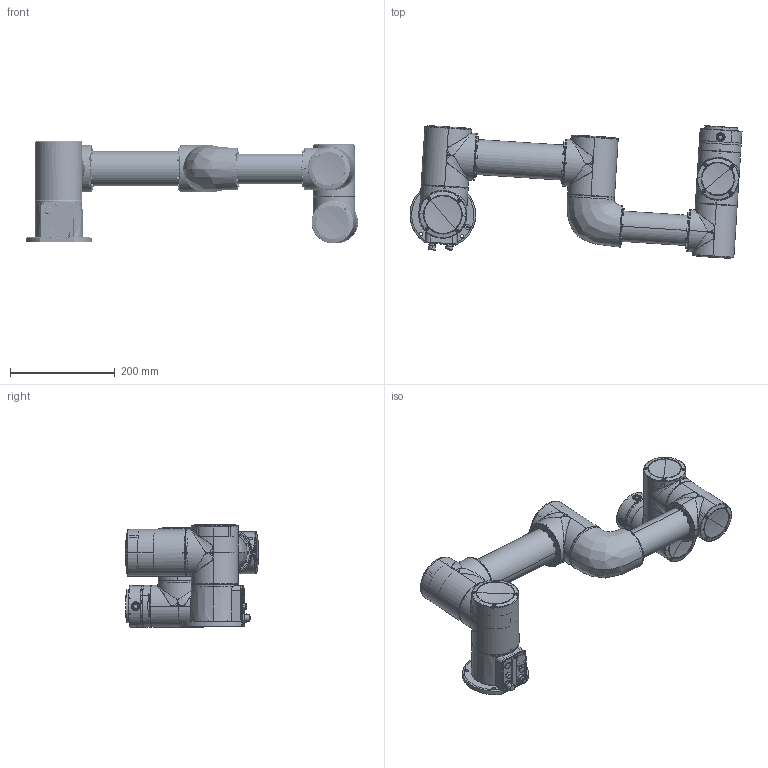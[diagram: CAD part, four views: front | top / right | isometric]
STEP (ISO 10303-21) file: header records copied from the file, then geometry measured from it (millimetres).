
FILE_DESCRIPTION (( 'STEP AP203' ), '1' );
FILE_NAME ('RD20.1-MTFR3-V6.0Èí¼þÄ£ÐÍ.STEP', '2024-11-14T06:56:09', ( '' ), ( '' ), 'SwSTEP 2.0', 'SolidWorks 2018', '' );
FILE_SCHEMA (( 'CONFIG_CONTROL_DESIGN' ));
Length unit declared in the file: millimetre
Products named in the file (7): RD20.1-MTFR3-V6.0软件模型; RD20.1-MTFR3-V6.0-3; RD20.1-MTFR3-V6.0-2; RD20.1-MTFR3-V6.0-1; RD20.1-MTFR3-V6.0-7; RD20.1-MTFR3-V6.0-5; RD20.1-MTFR3-V6.0-4
Assembly tree (7 placements, depth 2):
  RD20.1-MTFR3-V6.0软件模型
    RD20.1-MTFR3-V6.0-1
    RD20.1-MTFR3-V6.0-2
    RD20.1-MTFR3-V6.0-3
    RD20.1-MTFR3-V6.0-4
    RD20.1-MTFR3-V6.0-5  x2
    RD20.1-MTFR3-V6.0-7
Bounding box: 634.15 x 253.52 x 196.41 mm (x, y, z)
Volume: 6515056.5 mm3; surface area: 701017.8 mm2
Topology: 32 solids, 98 shells, 4486 faces, 11614 edges, 7551 vertices
Faces by surface type: plane 2038, cylinder 1523, cone 436, bspline 333, torus 124, sphere 32
Entity records: 202163 total; most frequent: CARTESIAN_POINT 102935, ORIENTED_EDGE 21698, DIRECTION 18466, EDGE_CURVE 10849, VERTEX_POINT 7128, AXIS2_PLACEMENT_3D 6870, EDGE_LOOP 4783, VECTOR 4726
